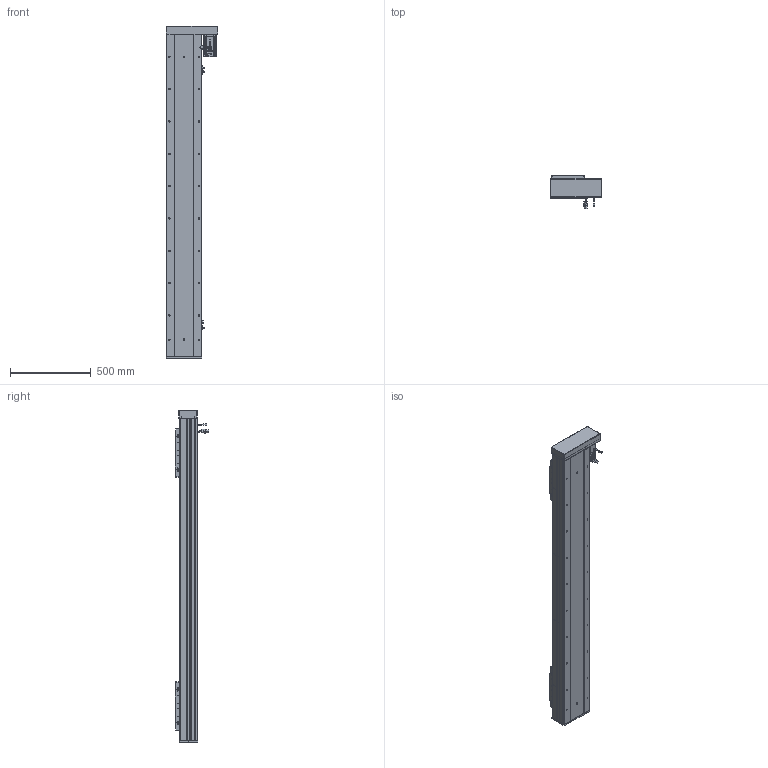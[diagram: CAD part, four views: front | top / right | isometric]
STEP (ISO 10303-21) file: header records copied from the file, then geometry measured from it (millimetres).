
FILE_DESCRIPTION (( 'STEP AP203' ), '1' );
FILE_NAME ('RY220F-L2525-800-RK-邧嶺.SLDASM_1550.step', '2022-08-06T08:19:38', ( '' ), ( '' ), 'SwSTEP 2.0', 'SolidWorks 2016', '' );
FILE_SCHEMA (( 'CONFIG_CONTROL_DESIGN' ));
Length unit declared in the file: millimetre
Products named in the file (15): 侐源滅袉蝶; RY220F綴裔啣; 滅袉蝶18-24; 怢湛750W_ECMA-CX0807ES; RY220F-672覜茼んえ; RY220F-L2525-800-RK-邧嶺.SLDASM_1550; RY220酘衵殏萇儂欶; RY220F-蛌殏奻裔啣-800_1550; RY220F-祥凄詩湍-蛌殏-800_1550; 覜茼ん672; RY220F臏賑釱25-32佪裝; RY220F-詩湍揤踡輸; RY220F蛌殏菁釱-800-邧嶺_1550; RY220左右折电机安装板; RY220F-滅鳥奻裔
Assembly tree (24 placements, depth 2):
  RY220F-L2525-800-RK-邧嶺.SLDASM_1550
    RY220F蛌殏菁釱-800-邧嶺_1550
    RY220F-蛌殏奻裔啣-800_1550  x2
    怢湛750W_ECMA-CX0807ES
    RY220F臏賑釱25-32佪裝  x2
    RY220F-滅鳥奻裔  x2
    滅袉蝶18-24  x3
    RY220F綴裔啣
    RY220F-祥凄詩湍-蛌殏-800_1550
    RY220F-詩湍揤踡輸  x2
    覜茼ん672  x3
    RY220F-672覜茼んえ  x2
    RY220左右折电机安装板
    RY220酘衵殏萇儂欶
    侐源滅袉蝶  x2
Bounding box: 317.5 x 205.27 x 2053 mm (x, y, z)
Volume: 18258648.9 mm3; surface area: 4838030.7 mm2
Topology: 25 solids, 25 shells, 2836 faces, 7704 edges, 4752 vertices
Faces by surface type: cylinder 1286, plane 1044, cone 435, bspline 45, sphere 16, torus 10
Entity records: 70544 total; most frequent: CARTESIAN_POINT 18949, ORIENTED_EDGE 10398, DIRECTION 10188, EDGE_CURVE 5199, AXIS2_PLACEMENT_3D 3642, VERTEX_POINT 3368, VECTOR 2904, LINE 2904
